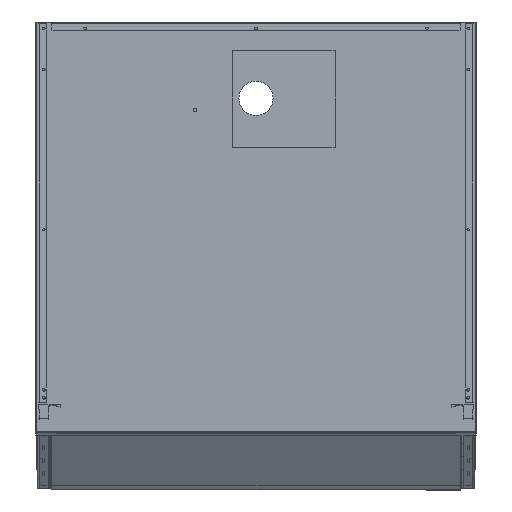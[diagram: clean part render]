
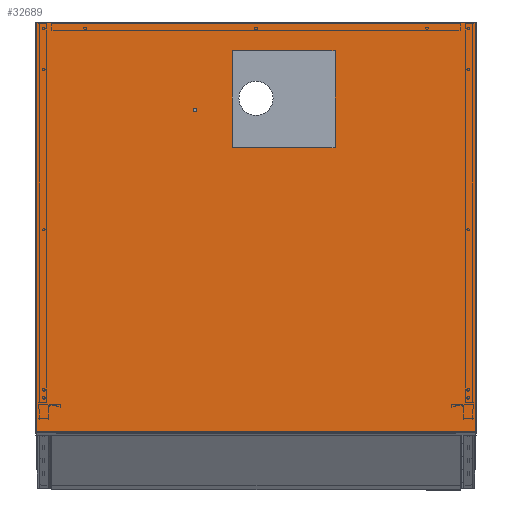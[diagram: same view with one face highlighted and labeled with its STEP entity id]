
A CAD part, top view. The second image highlights one B-rep face of the part: STEP entity #32689.
In plain terms, the highlighted planar face has unit normal (0, 0, 1).
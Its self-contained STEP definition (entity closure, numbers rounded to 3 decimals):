
#2845=CIRCLE('',#35996,3.);
#11787=ORIENTED_EDGE('',*,*,#16715,.F.);
#11788=ORIENTED_EDGE('',*,*,#16716,.F.);
#11789=ORIENTED_EDGE('',*,*,#16717,.F.);
#11790=ORIENTED_EDGE('',*,*,#16718,.F.);
#11791=ORIENTED_EDGE('',*,*,#16719,.F.);
#11792=ORIENTED_EDGE('',*,*,#16720,.F.);
#11793=ORIENTED_EDGE('',*,*,#16721,.F.);
#11794=ORIENTED_EDGE('',*,*,#16722,.T.);
#11795=ORIENTED_EDGE('',*,*,#16723,.F.);
#11796=ORIENTED_EDGE('',*,*,#16724,.T.);
#11797=ORIENTED_EDGE('',*,*,#16725,.F.);
#11798=ORIENTED_EDGE('',*,*,#16726,.T.);
#11799=ORIENTED_EDGE('',*,*,#16727,.T.);
#16715=EDGE_CURVE('',#19754,#19755,#22625,.T.);
#16716=EDGE_CURVE('',#19756,#19754,#22626,.T.);
#16717=EDGE_CURVE('',#19757,#19756,#22627,.T.);
#16718=EDGE_CURVE('',#19755,#19757,#22628,.T.);
#16719=EDGE_CURVE('',#19758,#19759,#22629,.T.);
#16720=EDGE_CURVE('',#19760,#19758,#22630,.T.);
#16721=EDGE_CURVE('',#19761,#19760,#22631,.T.);
#16722=EDGE_CURVE('',#19761,#19762,#22632,.T.);
#16723=EDGE_CURVE('',#19763,#19762,#22633,.T.);
#16724=EDGE_CURVE('',#19763,#19764,#22634,.T.);
#16725=EDGE_CURVE('',#19765,#19764,#22635,.T.);
#16726=EDGE_CURVE('',#19765,#19759,#22636,.T.);
#16727=EDGE_CURVE('',#19766,#19766,#2845,.T.);
#19754=VERTEX_POINT('',#59206);
#19755=VERTEX_POINT('',#59207);
#19756=VERTEX_POINT('',#59209);
#19757=VERTEX_POINT('',#59211);
#19758=VERTEX_POINT('',#59214);
#19759=VERTEX_POINT('',#59215);
#19760=VERTEX_POINT('',#59217);
#19761=VERTEX_POINT('',#59219);
#19762=VERTEX_POINT('',#59221);
#19763=VERTEX_POINT('',#59223);
#19764=VERTEX_POINT('',#59225);
#19765=VERTEX_POINT('',#59227);
#19766=VERTEX_POINT('',#59230);
#22625=LINE('',#59205,#25540);
#22626=LINE('',#59208,#25541);
#22627=LINE('',#59210,#25542);
#22628=LINE('',#59212,#25543);
#22629=LINE('',#59213,#25544);
#22630=LINE('',#59216,#25545);
#22631=LINE('',#59218,#25546);
#22632=LINE('',#59220,#25547);
#22633=LINE('',#59222,#25548);
#22634=LINE('',#59224,#25549);
#22635=LINE('',#59226,#25550);
#22636=LINE('',#59228,#25551);
#25540=VECTOR('',#44878,1000.);
#25541=VECTOR('',#44879,1000.);
#25542=VECTOR('',#44880,1000.);
#25543=VECTOR('',#44881,1000.);
#25544=VECTOR('',#44882,1000.);
#25545=VECTOR('',#44883,1000.);
#25546=VECTOR('',#44884,1000.);
#25547=VECTOR('',#44885,1000.);
#25548=VECTOR('',#44886,1000.);
#25549=VECTOR('',#44887,1000.);
#25550=VECTOR('',#44888,1000.);
#25551=VECTOR('',#44889,1000.);
#27797=EDGE_LOOP('',(#11787,#11788,#11789,#11790));
#27798=EDGE_LOOP('',(#11791,#11792,#11793,#11794,#11795,#11796,#11797,#11798));
#27799=EDGE_LOOP('',(#11799));
#29962=FACE_BOUND('',#27797,.T.);
#29963=FACE_BOUND('',#27798,.T.);
#29964=FACE_BOUND('',#27799,.T.);
#30859=PLANE('',#35995);
#32689=ADVANCED_FACE('',(#29962,#29963,#29964),#30859,.T.);
#35995=AXIS2_PLACEMENT_3D('',#59204,#44876,#44877);
#35996=AXIS2_PLACEMENT_3D('',#59229,#44890,#44891);
#44876=DIRECTION('',(0.,0.,1.));
#44877=DIRECTION('',(0.,-1.,0.));
#44878=DIRECTION('',(1.,0.,0.));
#44879=DIRECTION('',(0.,-1.,0.));
#44880=DIRECTION('',(-1.,0.,0.));
#44881=DIRECTION('',(0.,1.,0.));
#44882=DIRECTION('',(0.,-1.,0.));
#44883=DIRECTION('',(1.,0.,0.));
#44884=DIRECTION('',(0.,1.,0.));
#44885=DIRECTION('',(0.,-1.,0.));
#44886=DIRECTION('',(0.,1.,0.));
#44887=DIRECTION('',(1.,0.,0.));
#44888=DIRECTION('',(0.,-1.,0.));
#44889=DIRECTION('',(0.,1.,0.));
#44890=DIRECTION('',(0.,0.,-1.));
#44891=DIRECTION('',(0.,1.,0.));
#59204=CARTESIAN_POINT('',(-385.,358.695,0.7));
#59205=CARTESIAN_POINT('',(-41.5,139.395,0.7));
#59206=CARTESIAN_POINT('',(-41.5,139.395,0.7));
#59207=CARTESIAN_POINT('',(138.5,139.395,0.7));
#59208=CARTESIAN_POINT('',(-41.5,309.395,0.7));
#59209=CARTESIAN_POINT('',(-41.5,309.395,0.7));
#59210=CARTESIAN_POINT('',(138.5,309.395,0.7));
#59211=CARTESIAN_POINT('',(138.5,309.395,0.7));
#59212=CARTESIAN_POINT('',(138.5,139.395,0.7));
#59213=CARTESIAN_POINT('',(384.998,358.693,0.7));
#59214=CARTESIAN_POINT('',(384.998,358.693,0.7));
#59215=CARTESIAN_POINT('',(384.998,358.691,0.7));
#59216=CARTESIAN_POINT('',(-385.,358.693,0.7));
#59217=CARTESIAN_POINT('',(-384.998,358.693,0.7));
#59218=CARTESIAN_POINT('',(-384.998,-358.694,0.7));
#59219=CARTESIAN_POINT('',(-384.998,358.691,0.7));
#59220=CARTESIAN_POINT('',(-384.998,358.691,0.7));
#59221=CARTESIAN_POINT('',(-384.998,-358.41,0.7));
#59222=CARTESIAN_POINT('',(-384.998,-358.694,0.7));
#59223=CARTESIAN_POINT('',(-384.998,-358.694,0.7));
#59224=CARTESIAN_POINT('',(-385.,-358.694,0.7));
#59225=CARTESIAN_POINT('',(384.998,-358.694,0.7));
#59226=CARTESIAN_POINT('',(384.998,358.693,0.7));
#59227=CARTESIAN_POINT('',(384.998,-358.41,0.7));
#59228=CARTESIAN_POINT('',(384.998,-358.41,0.7));
#59229=CARTESIAN_POINT('',(-106.5,205.395,0.7));
#59230=CARTESIAN_POINT('',(-106.5,208.395,0.7));
